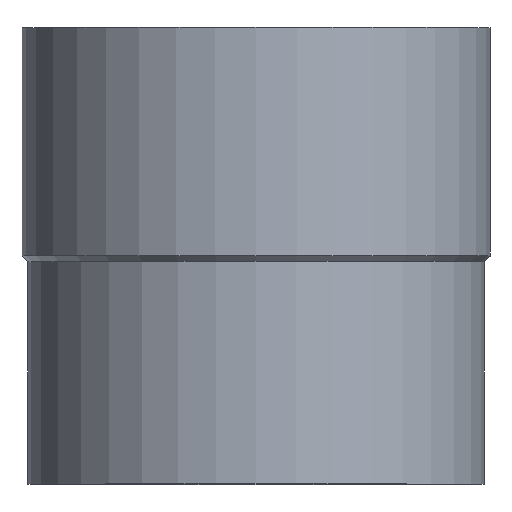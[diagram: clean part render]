
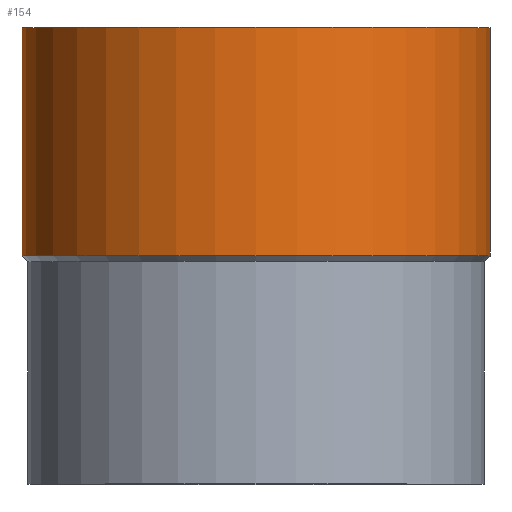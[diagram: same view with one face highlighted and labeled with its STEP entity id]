
A CAD part, top view. The second image highlights one B-rep face of the part: STEP entity #154.
In plain terms, the highlighted cylindrical face has radius 41 mm (diameter 82 mm), a full revolution.
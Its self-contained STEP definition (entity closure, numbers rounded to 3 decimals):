
#19=CYLINDRICAL_SURFACE('',#186,41.);
#24=FACE_OUTER_BOUND('',#32,.T.);
#32=EDGE_LOOP('',(#113,#114,#115,#116,#117,#118));
#42=LINE('',#277,#48);
#48=VECTOR('',#224,41.);
#53=CIRCLE('',#182,41.);
#54=CIRCLE('',#183,41.);
#57=CIRCLE('',#187,41.);
#58=CIRCLE('',#188,41.);
#69=VERTEX_POINT('',#263);
#70=VERTEX_POINT('',#264);
#73=VERTEX_POINT('',#273);
#74=VERTEX_POINT('',#274);
#85=EDGE_CURVE('',#69,#70,#53,.T.);
#86=EDGE_CURVE('',#70,#69,#54,.T.);
#90=EDGE_CURVE('',#73,#74,#57,.T.);
#91=EDGE_CURVE('',#74,#73,#58,.T.);
#92=EDGE_CURVE('',#74,#70,#42,.T.);
#113=ORIENTED_EDGE('',*,*,#90,.F.);
#114=ORIENTED_EDGE('',*,*,#91,.F.);
#115=ORIENTED_EDGE('',*,*,#92,.T.);
#116=ORIENTED_EDGE('',*,*,#86,.T.);
#117=ORIENTED_EDGE('',*,*,#85,.T.);
#118=ORIENTED_EDGE('',*,*,#92,.F.);
#154=ADVANCED_FACE('',(#24),#19,.T.);
#182=AXIS2_PLACEMENT_3D('',#265,#209,#210);
#183=AXIS2_PLACEMENT_3D('',#266,#211,#212);
#186=AXIS2_PLACEMENT_3D('',#272,#218,#219);
#187=AXIS2_PLACEMENT_3D('',#275,#220,#221);
#188=AXIS2_PLACEMENT_3D('',#276,#222,#223);
#209=DIRECTION('center_axis',(0.,1.,0.));
#210=DIRECTION('ref_axis',(-1.,0.,0.));
#211=DIRECTION('center_axis',(0.,1.,0.));
#212=DIRECTION('ref_axis',(-1.,0.,0.));
#218=DIRECTION('center_axis',(0.,1.,0.));
#219=DIRECTION('ref_axis',(-1.,0.,0.));
#220=DIRECTION('center_axis',(0.,1.,0.));
#221=DIRECTION('ref_axis',(-1.,0.,0.));
#222=DIRECTION('center_axis',(0.,1.,0.));
#223=DIRECTION('ref_axis',(-1.,0.,0.));
#224=DIRECTION('',(0.,-1.,0.));
#263=CARTESIAN_POINT('',(-41.,40.,0.));
#264=CARTESIAN_POINT('',(41.,40.,0.));
#265=CARTESIAN_POINT('Origin',(0.,40.,0.));
#266=CARTESIAN_POINT('Origin',(0.,40.,0.));
#272=CARTESIAN_POINT('Origin',(0.,60.,0.));
#273=CARTESIAN_POINT('',(-41.,80.,0.));
#274=CARTESIAN_POINT('',(41.,80.,0.));
#275=CARTESIAN_POINT('Origin',(0.,80.,0.));
#276=CARTESIAN_POINT('Origin',(0.,80.,0.));
#277=CARTESIAN_POINT('',(41.,60.,0.));
